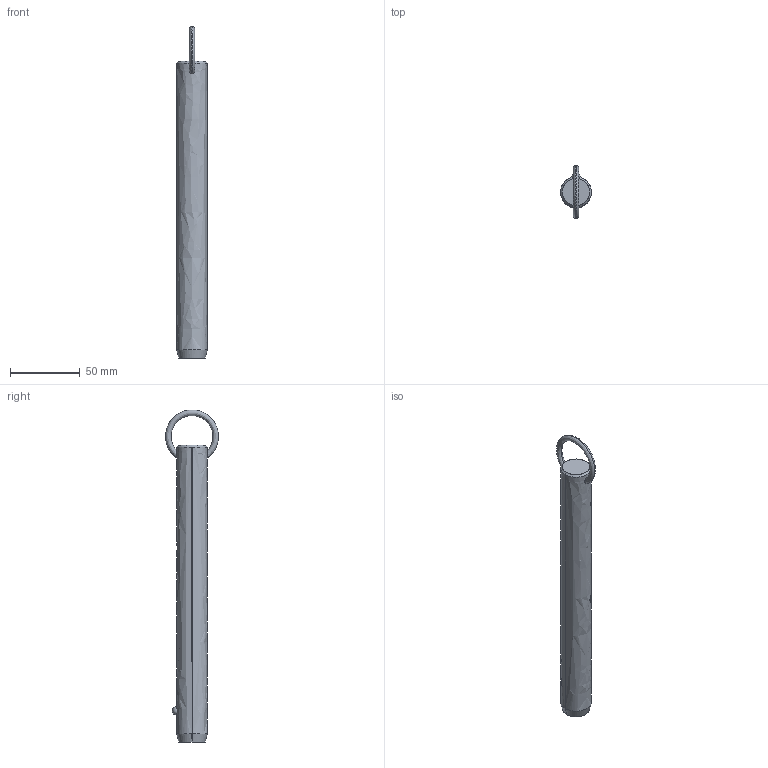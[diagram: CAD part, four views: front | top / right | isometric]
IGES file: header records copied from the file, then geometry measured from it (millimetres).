
Start section: SolidWorks IGES file using analytic representation for surfaces
Global section: file name: C:\Users\liam_\OneDrive\Documents\WORK\Work for WixRoyd\Job Files\J-00019 - Matt Davis CAD Checking\04. CAD Drawings\automotion20190605\P1250.2_v2\P1250.2_v2_20190729_IGES\P1250.087-690.igs; native system: SolidWorks 2017; preprocessor: SolidWorks 2017; author: liam_; date: 190730.172913; units: millimetre
Bounding box: 22.2 x 38.05 x 238.79 mm (x, y, z)
Surface area: 16527 mm2 (no closed solid volume)
Topology: 0 solids, 0 shells, 12 faces, 302 edges, 300 vertices
Faces by surface type: revolution 8, bspline 4
